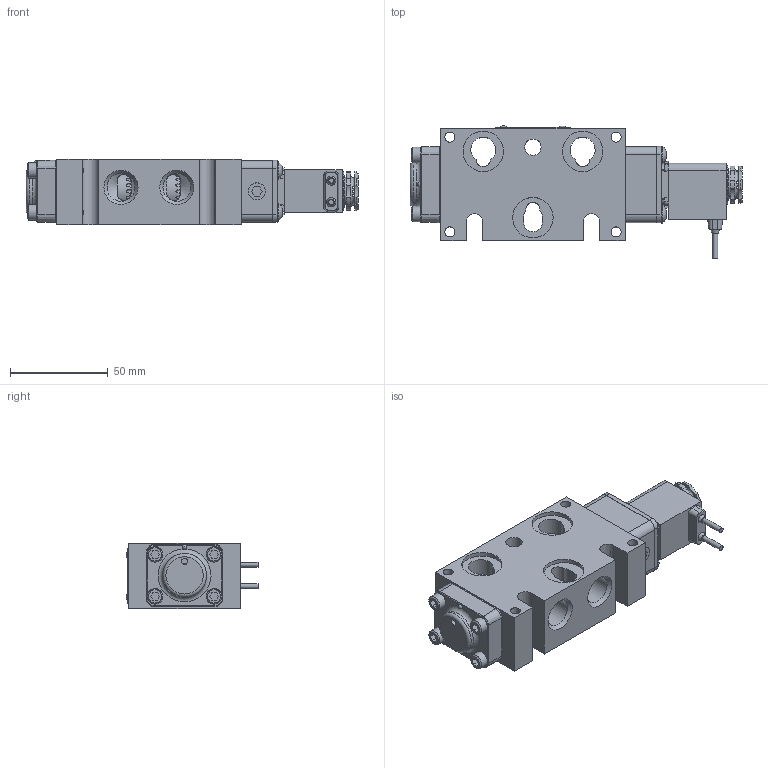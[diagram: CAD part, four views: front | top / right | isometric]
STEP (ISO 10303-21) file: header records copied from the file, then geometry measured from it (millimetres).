
FILE_DESCRIPTION(/* description */ (''),/* implementation_level */ '2;1');
FILE_NAME(/* name */ 'D:\Website Files\stp\Valves\Standard\ESO\EBSO3MC.stp',/* time_stamp */ '2016-03-20T10:51:43-04:00',/* author */ ('RMcKenna'),/* organization */ (''),/* preprocessor_version */ 'ST-DEVELOPER v15.6',/* originating_system */ 'Autodesk Inventor 2015',/* authorisation */ '');
FILE_SCHEMA (('AUTOMOTIVE_DESIGN { 1 0 10303 214 3 1 1 }'));
Length unit declared in the file: centimetre
Products named in the file (1): Part61
Bounding box: 169.57 x 67.45 x 33.32 mm (x, y, z)
Volume: 180340.8 mm3; surface area: 71171.6 mm2
Topology: 1 solids, 23 shells, 1389 faces, 3390 edges, 2160 vertices
Faces by surface type: plane 582, cylinder 388, cone 248, torus 119, bspline 45, sphere 7
Full cylindrical faces by diameter (mm): 1.168 x10, 1.3 x1, 1.397 x1, 1.5 x1, 2.007 x2, 2.032 x4, 2.07 x2, 2.261 x2, 2.35 x4, 2.54 x2, 2.778 x2, 2.8 x1, 2.819 x1, 3 x4, 3.048 x2, 3.175 x2, 3.4 x1, 3.683 x9, 4.191 x2, 4.826 x8, 4.953 x1, 5.15 x4, 5.156 x12, 5.5 x1, 6.553 x1, 7.29 x1, 7.938 x4, 8 x2, 8.052 x1, 8.153 x1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
Entity records: 43950 total; most frequent: CARTESIAN_POINT 11421, DIRECTION 6573, ORIENTED_EDGE 6068, EDGE_CURVE 3032, AXIS2_PLACEMENT_3D 2605, VERTEX_POINT 2044, EDGE_LOOP 1824, FACE_OUTER_BOUND 1388
